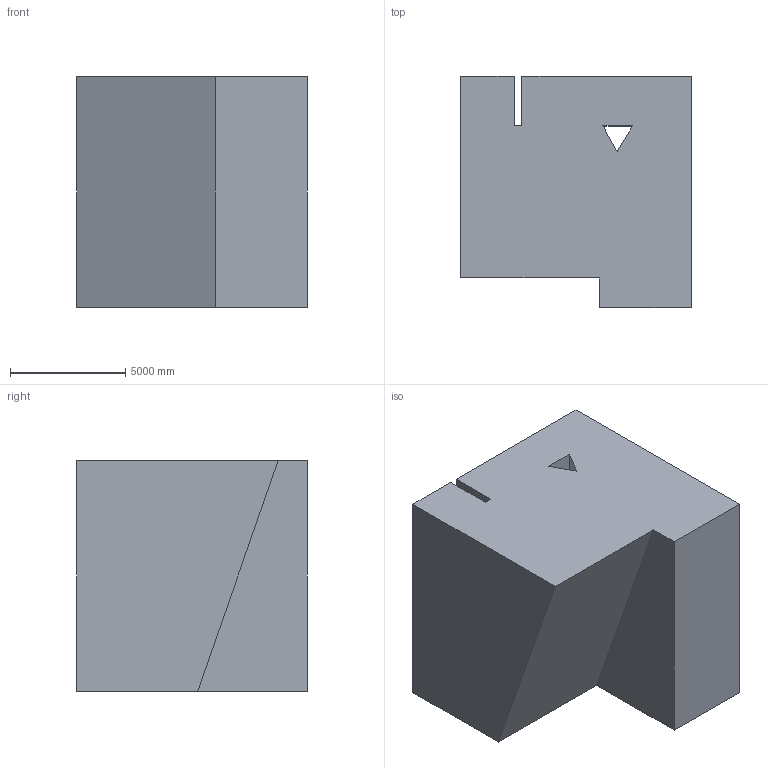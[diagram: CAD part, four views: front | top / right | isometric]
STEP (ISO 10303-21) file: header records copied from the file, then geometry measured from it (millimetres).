
FILE_DESCRIPTION (( 'STEP AP203' ), '1' );
FILE_NAME ('122.STEP', '2022-09-05T15:36:43', ( 'user' ), ( '' ), 'SwSTEP 2.0', 'SolidWorks 2021', '' );
FILE_SCHEMA (( 'CONFIG_CONTROL_DESIGN' ));
Length unit declared in the file: centimetre
Products named in the file (1): 122
Bounding box: 10000 x 10000 x 10000 mm (x, y, z)
Volume: 804520152703 mm3; surface area: 645598535.3 mm2
Topology: 1 solids, 1 shells, 15 faces, 39 edges, 26 vertices
Faces by surface type: plane 15
Entity records: 534 total; most frequent: CARTESIAN_POINT 81, ORIENTED_EDGE 78, DIRECTION 71, EDGE_CURVE 39, VECTOR 39, LINE 39, VERTEX_POINT 26, EDGE_LOOP 17
